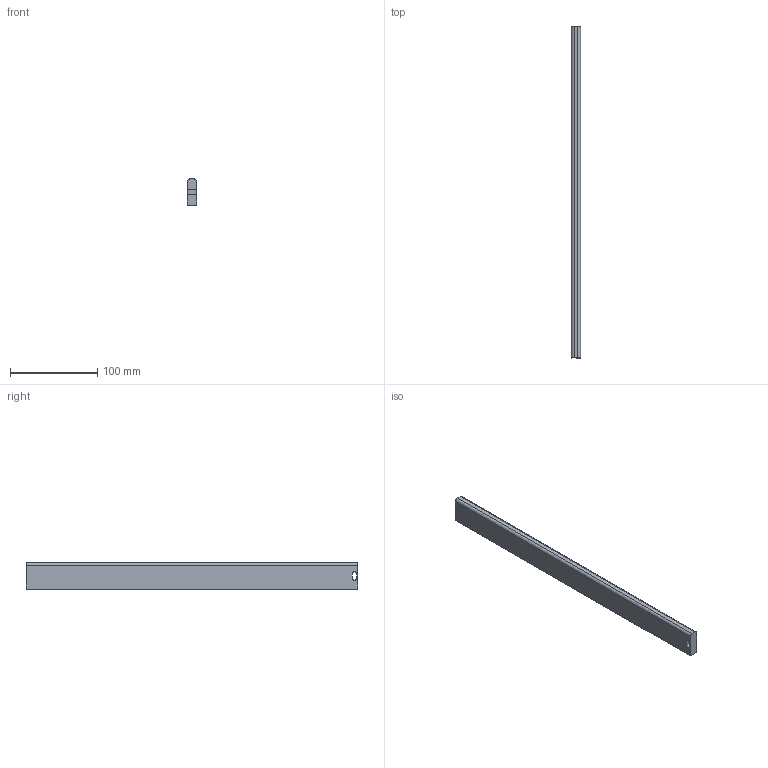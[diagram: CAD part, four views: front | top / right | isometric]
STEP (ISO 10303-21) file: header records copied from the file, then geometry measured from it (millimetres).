
FILE_DESCRIPTION (( 'STEP AP214' ), '1' );
FILE_NAME ('_Seitenreling_S610000200_RL381.step', '2010-09-06T14:51:17', ( 'grass' ), ( '' ), 'SwSTEP 2.0', 'SolidWorks 2010', '' );
FILE_SCHEMA (( 'AUTOMOTIVE_DESIGN' ));
Length unit declared in the file: millimetre
Products named in the file (1): _Seitenreling_S610000200_RL381
Bounding box: 10.5 x 381 x 30 mm (x, y, z)
Volume: 118074.6 mm3; surface area: 30682.8 mm2
Topology: 1 solids, 1 shells, 12 faces, 30 edges, 20 vertices
Faces by surface type: plane 8, cylinder 4
Entity records: 400 total; most frequent: DIRECTION 64, CARTESIAN_POINT 63, ORIENTED_EDGE 60, EDGE_CURVE 30, VECTOR 22, LINE 22, AXIS2_PLACEMENT_3D 21, VERTEX_POINT 20
